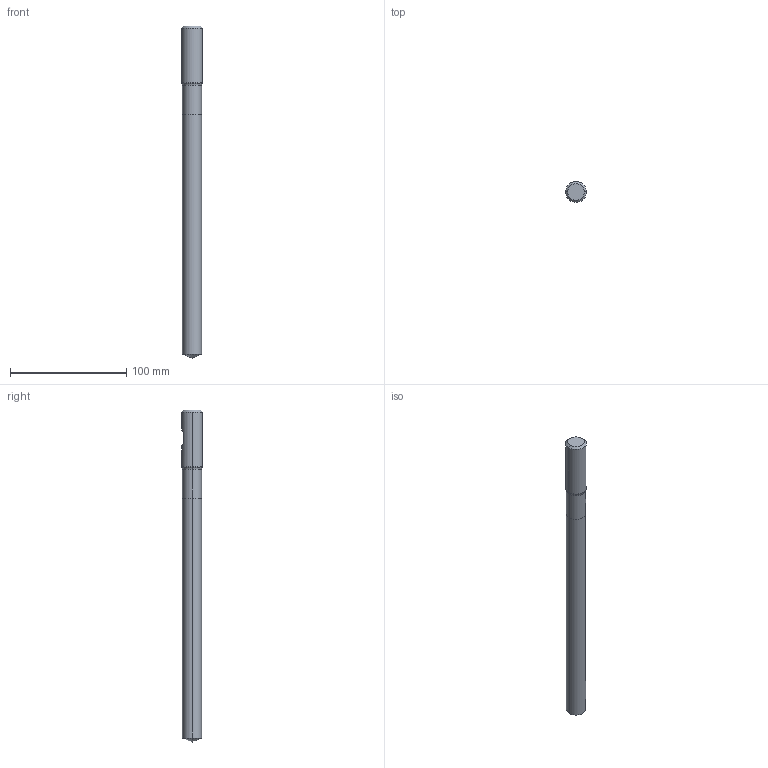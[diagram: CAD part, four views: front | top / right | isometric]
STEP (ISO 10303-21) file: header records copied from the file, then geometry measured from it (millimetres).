
FILE_DESCRIPTION (( 'STEP AP214' ), '1' );
FILE_NAME ('710.165.10_3D-model.step', '2022-02-22T18:03:12', ( '' ), ( '' ), 'SwSTEP 2.0', 'SolidWorks 2020', '' );
FILE_SCHEMA (( 'AUTOMOTIVE_DESIGN' ));
Length unit declared in the file: millimetre
Products named in the file (3): CUT-3D^Baugr178; NOCUT-3D^Baugr178; 710.165.10_3D-model
Assembly tree (2 placements, depth 2):
  710.165.10_3D-model
    CUT-3D^Baugr178
    NOCUT-3D^Baugr178
Bounding box: 18 x 18 x 285 mm (x, y, z)
Volume: 62223.4 mm3; surface area: 15689.1 mm2
Topology: 2 solids, 2 shells, 20 faces, 38 edges, 21 vertices
Faces by surface type: cone 6, cylinder 6, plane 6, torus 2
Entity records: 608 total; most frequent: DIRECTION 108, CARTESIAN_POINT 91, ORIENTED_EDGE 72, AXIS2_PLACEMENT_3D 46, EDGE_CURVE 36, VERTEX_POINT 21, EDGE_LOOP 21, FACE_OUTER_BOUND 20
